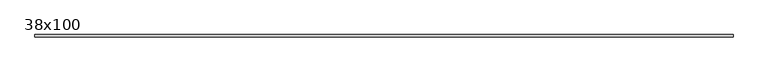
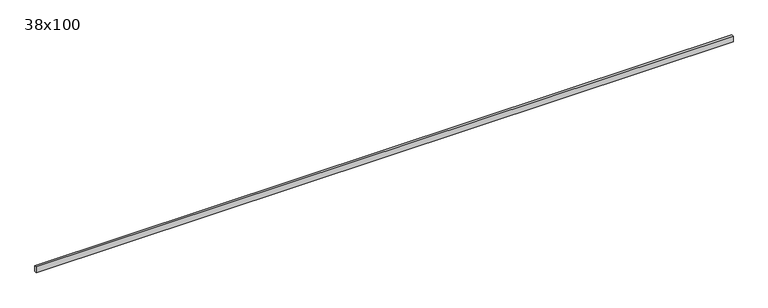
"""IFC4 building model written with IfcOpenShell, lengths in millimetres: beam geometry, Poutre - Bois de construction de dimensions courantes : 38x100."""

from ifc_helpers import new_model, si_unit, frame, origin, place, context, project, spatial, polyline, outline, extrude, source, transform, mapped, element, save


def beam_38x100_1e2fbe71(model_context):
    return source(origin(), model_context, "Body", "SweptSolid", [
        extrude(outline(polyline([(5848.0, 19.05), (5848.0, -19.05), (-5848.0, -19.05), (-5848.0, 19.05), (5848.0, 19.05)])), frame((0.0, 0.0, -50.0), z_axis=(0.0, 0.0, 1.0), x_axis=(1.0, 0.0, 0.0)), (0.0, 0.0, 1.0), 100.0),
    ])


if __name__ == "__main__":
    model = new_model("IFC4")
    model_context = context("Model", 3, world=origin())
    ifc_project = project(units=[si_unit("LENGTHUNIT", "METRE", prefix="MILLI")], contexts=[model_context])
    site = spatial("IfcSite", under=ifc_project)
    building = spatial("IfcBuilding", under=site)
    placement = place(None, origin())
    beam_38x100_shape = beam_38x100_1e2fbe71(model_context)
    element("IfcBeam", 1, ObjectType="Poutre - Bois de construction de dimensions courantes : 38x100", at=placement, inside=building, context=model_context, shape_type="MappedRepresentation", body=[
        mapped(beam_38x100_shape, transform((0.0, 0.0, 0.0), x_axis=(1.0, 0.0, 0.0), y_axis=(0.0, 1.0, 0.0), z_axis=(0.0, 0.0, 1.0))),
    ])
    save(model, "model.ifc")
